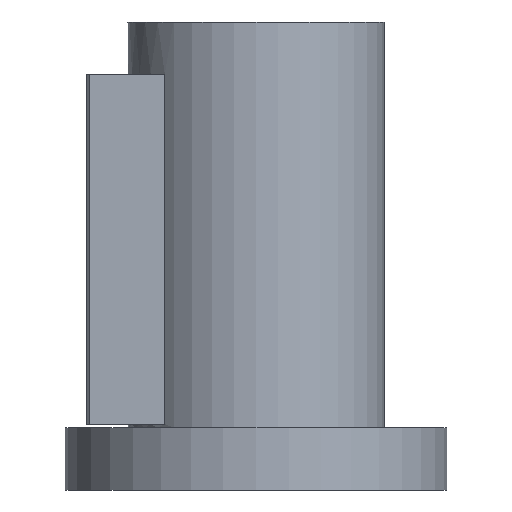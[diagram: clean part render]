
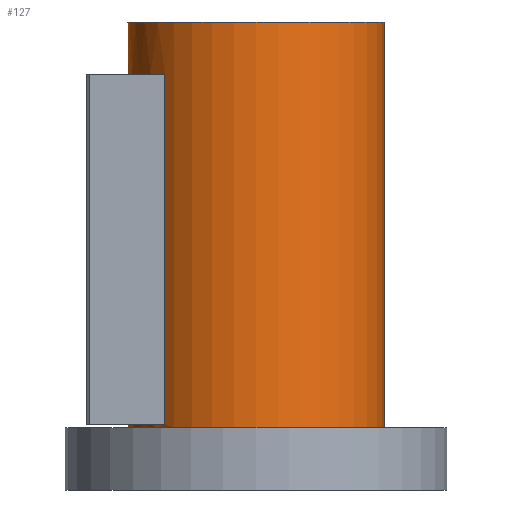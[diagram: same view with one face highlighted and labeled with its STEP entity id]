
A CAD part, front view. The second image highlights one B-rep face of the part: STEP entity #127.
In plain terms, the highlighted cylindrical face has radius 37 mm (diameter 74 mm), a full revolution.
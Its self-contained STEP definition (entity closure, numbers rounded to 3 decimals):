
#127=ADVANCED_FACE('',(#200,#201,#202),#155,.T.);
#155=CYLINDRICAL_SURFACE('',#508,37.);
#168=LINE('',#698,#184);
#169=LINE('',#702,#185);
#184=VECTOR('',#568,1.);
#185=VECTOR('',#571,1.);
#200=FACE_BOUND('',#245,.T.);
#201=FACE_BOUND('',#246,.T.);
#202=FACE_BOUND('',#247,.T.);
#245=EDGE_LOOP('',(#305));
#246=EDGE_LOOP('',(#306));
#247=EDGE_LOOP('',(#307,#308,#309,#310));
#305=ORIENTED_EDGE('',*,*,#431,.F.);
#306=ORIENTED_EDGE('',*,*,#432,.T.);
#307=ORIENTED_EDGE('',*,*,#433,.F.);
#308=ORIENTED_EDGE('',*,*,#434,.F.);
#309=ORIENTED_EDGE('',*,*,#435,.T.);
#310=ORIENTED_EDGE('',*,*,#436,.F.);
#393=VERTEX_POINT('',#692);
#394=VERTEX_POINT('',#694);
#395=VERTEX_POINT('',#696);
#396=VERTEX_POINT('',#697);
#397=VERTEX_POINT('',#699);
#398=VERTEX_POINT('',#701);
#431=EDGE_CURVE('',#393,#393,#475,.T.);
#432=EDGE_CURVE('',#394,#394,#476,.T.);
#433=EDGE_CURVE('',#395,#396,#477,.T.);
#434=EDGE_CURVE('',#397,#395,#168,.T.);
#435=EDGE_CURVE('',#397,#398,#478,.T.);
#436=EDGE_CURVE('',#396,#398,#169,.T.);
#475=CIRCLE('',#504,37.);
#476=CIRCLE('',#505,37.);
#477=CIRCLE('',#506,37.);
#478=CIRCLE('',#507,37.);
#504=AXIS2_PLACEMENT_3D('',#691,#562,#563);
#505=AXIS2_PLACEMENT_3D('',#693,#564,#565);
#506=AXIS2_PLACEMENT_3D('',#695,#566,#567);
#507=AXIS2_PLACEMENT_3D('',#700,#569,#570);
#508=AXIS2_PLACEMENT_3D('',#703,#572,#573);
#562=DIRECTION('',(0.,0.,1.));
#563=DIRECTION('',(1.,0.,0.));
#564=DIRECTION('',(0.,0.,1.));
#565=DIRECTION('',(1.,0.,0.));
#566=DIRECTION('',(0.,0.,-1.));
#567=DIRECTION('',(-1.,0.,0.));
#568=DIRECTION('',(0.,0.,1.));
#569=DIRECTION('',(0.,0.,-1.));
#570=DIRECTION('',(-1.,0.,0.));
#571=DIRECTION('',(0.,0.,-1.));
#572=DIRECTION('',(0.,0.,-1.));
#573=DIRECTION('',(-1.,0.,0.));
#691=CARTESIAN_POINT('',(0.,0.,135.));
#692=CARTESIAN_POINT('',(37.,0.,135.));
#693=CARTESIAN_POINT('',(0.,0.,18.));
#694=CARTESIAN_POINT('',(37.,0.,18.));
#695=CARTESIAN_POINT('',(0.,0.,120.));
#696=CARTESIAN_POINT('',(-26.325,-26.,120.));
#697=CARTESIAN_POINT('',(-26.325,26.,120.));
#698=CARTESIAN_POINT('',(-26.325,-26.,135.));
#699=CARTESIAN_POINT('',(-26.325,-26.,19.));
#700=CARTESIAN_POINT('',(0.,0.,19.));
#701=CARTESIAN_POINT('',(-26.325,26.,19.));
#702=CARTESIAN_POINT('',(-26.325,26.,135.));
#703=CARTESIAN_POINT('',(0.,0.,135.));
